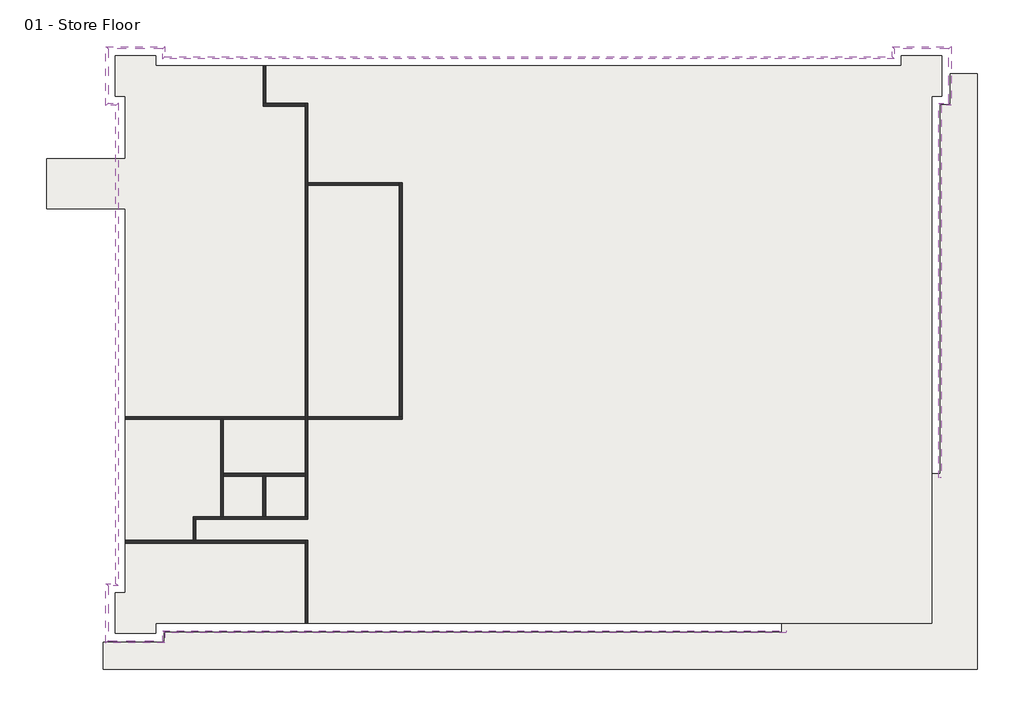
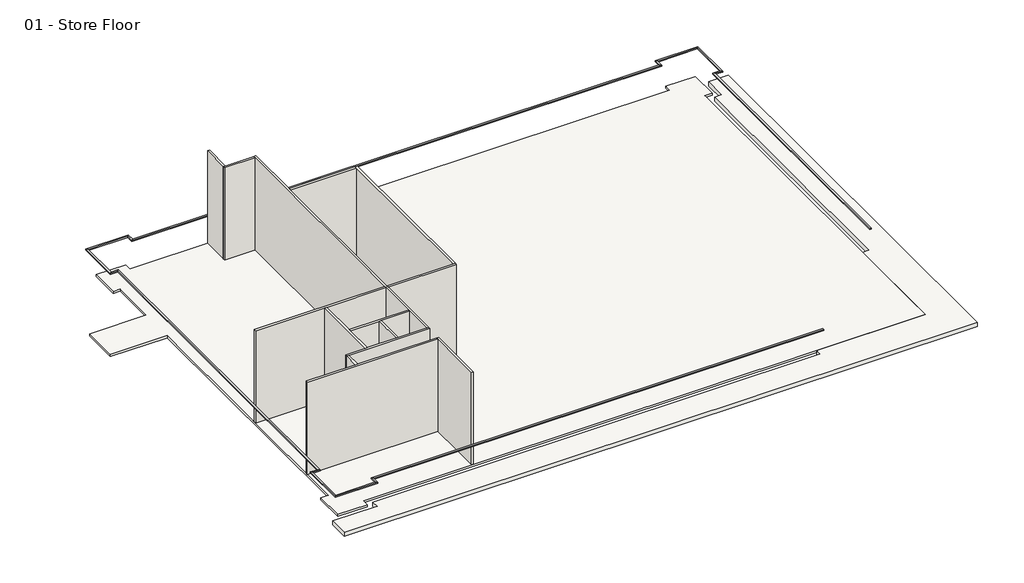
# One storey: 16 proxies, 13 walls, 2 slabs.
"""IFC4 building model written with IfcOpenShell, lengths in millimetres."""

from ifc_helpers import new_model, si_unit, frame, origin, origin_with_axes, place, context, project, spatial, polyline, outline, extrude, faceted_brep, element, save

model = new_model("IFC4")

# Units and contexts
model_context = context("Model", 3, world=origin())
ifc_project = project(units=[si_unit("LENGTHUNIT", "METRE", prefix="MILLI")], contexts=[model_context])

# Site, building, storey
site = spatial("IfcSite", under=ifc_project)
building = spatial("IfcBuilding", under=site)
storey = spatial("IfcBuildingStorey", under=building, Name="01 - Store Floor", Elevation=0.0)

# Proxies
placement = place(None, origin())
element("IfcBuildingElementProxy", 1, Name="Reveals", at=placement, inside=storey, context=model_context, shape_type="SweptSolid", body=[
    extrude(outline(polyline([(11070.0272279, -14331.9313057), (11070.0272279, -14434.4313057), (-20003.9727721, -14434.4313057), (-20106.4727721, -14331.9313057), (11070.0272279, -14331.9313057)])), frame((0.0, 0.0, 1675.0), z_axis=(0.0, 0.0, 1.0), x_axis=(1.0, 0.0, 0.0)), (0.0, 0.0, 1.0), 75.0),
])
element("IfcBuildingElementProxy", 2, Name="Reveals", at=placement, inside=storey, context=model_context, shape_type="SweptSolid", body=[
    extrude(outline(polyline([(-20106.4727721, -14331.9313057), (-20003.9727721, -14434.4313057), (-20003.9727721, -14934.2313057), (-20106.4727721, -14831.7313057), (-20106.4727721, -14331.9313057)])), frame((0.0, 0.0, 1675.0), z_axis=(0.0, 0.0, 1.0), x_axis=(1.0, 0.0, 0.0)), (0.0, 0.0, 1.0), 75.0),
])
element("IfcBuildingElementProxy", 3, Name="Reveals", at=placement, inside=storey, context=model_context, shape_type="SweptSolid", body=[
    extrude(outline(polyline([(-20106.4727721, -14831.7313057), (-20003.9727721, -14934.2313057), (-22946.9727721, -14934.2313057), (-22844.4727721, -14831.7313057), (-20106.4727721, -14831.7313057)])), frame((0.0, 0.0, 1675.0), z_axis=(0.0, 0.0, 1.0), x_axis=(1.0, 0.0, 0.0)), (0.0, 0.0, 1.0), 75.0),
])
element("IfcBuildingElementProxy", 4, Name="Reveals", at=placement, inside=storey, context=model_context, shape_type="SweptSolid", body=[
    extrude(outline(polyline([(-22844.4727721, -14831.7313057), (-22946.9727721, -14934.2313057), (-22946.9727721, -11991.2313057), (-22844.4727721, -12093.7313057), (-22844.4727721, -14831.7313057)])), frame((0.0, 0.0, 1675.0), z_axis=(0.0, 0.0, 1.0), x_axis=(1.0, 0.0, 0.0)), (0.0, 0.0, 1.0), 75.0),
])
element("IfcBuildingElementProxy", 5, Name="Reveals", at=placement, inside=storey, context=model_context, shape_type="SweptSolid", body=[
    extrude(outline(polyline([(-22844.4727721, -12093.7313057), (-22946.9727721, -11991.2313057), (-22446.9727721, -11991.2313057), (-22344.4727721, -12093.7313057), (-22844.4727721, -12093.7313057)])), frame((0.0, 0.0, 1675.0), z_axis=(0.0, 0.0, 1.0), x_axis=(1.0, 0.0, 0.0)), (0.0, 0.0, 1.0), 75.0),
])
element("IfcBuildingElementProxy", 6, Name="Reveals", at=placement, inside=storey, context=model_context, shape_type="SweptSolid", body=[
    extrude(outline(polyline([(-22344.4727721, -12093.7313057), (-22446.9727721, -11991.2313057), (-22446.9727721, 11927.5686943), (-22344.4727721, 12030.0686943), (-22344.4727721, -12093.7313057)])), frame((0.0, 0.0, 1675.0), z_axis=(0.0, 0.0, 1.0), x_axis=(1.0, 0.0, 0.0)), (0.0, 0.0, 1.0), 75.0),
])
element("IfcBuildingElementProxy", 7, Name="Reveals", at=placement, inside=storey, context=model_context, shape_type="SweptSolid", body=[
    extrude(outline(polyline([(-22344.4727721, 12030.0686943), (-22446.9727721, 11927.5686943), (-22946.9727721, 11927.5686943), (-22844.4727721, 12030.0686943), (-22344.4727721, 12030.0686943)])), frame((0.0, 0.0, 1675.0), z_axis=(0.0, 0.0, 1.0), x_axis=(1.0, 0.0, 0.0)), (0.0, 0.0, 1.0), 75.0),
])
element("IfcBuildingElementProxy", 8, Name="Reveals", at=placement, inside=storey, context=model_context, shape_type="SweptSolid", body=[
    extrude(outline(polyline([(-22844.4727721, 12030.0686943), (-22946.9727721, 11927.5686943), (-22946.9727721, 14870.5686943), (-22844.4727721, 14768.0686943), (-22844.4727721, 12030.0686943)])), frame((0.0, 0.0, 1675.0), z_axis=(0.0, 0.0, 1.0), x_axis=(1.0, 0.0, 0.0)), (0.0, 0.0, 1.0), 75.0),
])
element("IfcBuildingElementProxy", 9, Name="Reveals", at=placement, inside=storey, context=model_context, shape_type="SweptSolid", body=[
    extrude(outline(polyline([(-22844.4727721, 14768.0686943), (-22946.9727721, 14870.5686943), (-20003.9727721, 14870.5686943), (-20106.4727721, 14768.0686943), (-22844.4727721, 14768.0686943)])), frame((0.0, 0.0, 1675.0), z_axis=(0.0, 0.0, 1.0), x_axis=(1.0, 0.0, 0.0)), (0.0, 0.0, 1.0), 75.0),
])
element("IfcBuildingElementProxy", 10, Name="Reveals", at=placement, inside=storey, context=model_context, shape_type="SweptSolid", body=[
    extrude(outline(polyline([(-20106.4727721, 14768.0686943), (-20003.9727721, 14870.5686943), (-20003.9727721, 14370.5686943), (-20106.4727721, 14268.0686943), (-20106.4727721, 14768.0686943)])), frame((0.0, 0.0, 1675.0), z_axis=(0.0, 0.0, 1.0), x_axis=(1.0, 0.0, 0.0)), (0.0, 0.0, 1.0), 75.0),
])
element("IfcBuildingElementProxy", 11, Name="Reveals", at=placement, inside=storey, context=model_context, shape_type="SweptSolid", body=[
    extrude(outline(polyline([(-20106.4727721, 14268.0686943), (-20003.9727721, 14370.5686943), (16365.0272279, 14370.5686943), (16467.5272279, 14268.0686943), (-20106.4727721, 14268.0686943)])), frame((0.0, 0.0, 1675.0), z_axis=(0.0, 0.0, 1.0), x_axis=(1.0, 0.0, 0.0)), (0.0, 0.0, 1.0), 75.0),
])
element("IfcBuildingElementProxy", 12, Name="Reveals", at=placement, inside=storey, context=model_context, shape_type="SweptSolid", body=[
    extrude(outline(polyline([(16467.5272279, 14268.0686943), (16365.0272279, 14370.5686943), (16365.0272279, 14870.5686943), (16467.5272279, 14768.0686943), (16467.5272279, 14268.0686943)])), frame((0.0, 0.0, 1675.0), z_axis=(0.0, 0.0, 1.0), x_axis=(1.0, 0.0, 0.0)), (0.0, 0.0, 1.0), 75.0),
])
element("IfcBuildingElementProxy", 13, Name="Reveals", at=placement, inside=storey, context=model_context, shape_type="SweptSolid", body=[
    extrude(outline(polyline([(16467.5272279, 14768.0686943), (16365.0272279, 14870.5686943), (19308.0272279, 14870.5686943), (19205.5272279, 14768.0686943), (16467.5272279, 14768.0686943)])), frame((0.0, 0.0, 1675.0), z_axis=(0.0, 0.0, 1.0), x_axis=(1.0, 0.0, 0.0)), (0.0, 0.0, 1.0), 75.0),
])
element("IfcBuildingElementProxy", 14, Name="Reveals", at=placement, inside=storey, context=model_context, shape_type="SweptSolid", body=[
    extrude(outline(polyline([(19205.5272279, 14768.0686943), (19308.0272279, 14870.5686943), (19308.0272279, 11927.5686943), (19205.5272279, 12030.0686943), (19205.5272279, 14768.0686943)])), frame((0.0, 0.0, 1675.0), z_axis=(0.0, 0.0, 1.0), x_axis=(1.0, 0.0, 0.0)), (0.0, 0.0, 1.0), 75.0),
])
element("IfcBuildingElementProxy", 15, Name="Reveals", at=placement, inside=storey, context=model_context, shape_type="SweptSolid", body=[
    extrude(outline(polyline([(19205.5272279, 12030.0686943), (19308.0272279, 11927.5686943), (18808.0272279, 11927.5686943), (18705.5272279, 12030.0686943), (19205.5272279, 12030.0686943)])), frame((0.0, 0.0, 1675.0), z_axis=(0.0, 0.0, 1.0), x_axis=(1.0, 0.0, 0.0)), (0.0, 0.0, 1.0), 75.0),
])
element("IfcBuildingElementProxy", 16, Name="Reveals", at=placement, inside=storey, context=model_context, shape_type="SweptSolid", body=[
    extrude(outline(polyline([(18705.5272279, 12030.0686943), (18808.0272279, 11927.5686943), (18808.0272279, -6696.4313057), (18705.5272279, -6696.4313057), (18705.5272279, 12030.0686943)])), frame((0.0, 0.0, 1675.0), z_axis=(0.0, 0.0, 1.0), x_axis=(1.0, 0.0, 0.0)), (0.0, 0.0, 1.0), 75.0),
])

# Slabs
element("IfcSlab", 17, ObjectType="Generic 150mm", at=placement, inside=storey, context=model_context, shape_type="SweptSolid", body=[
    extrude(outline(polyline([(16821.5272279, 13914.0686943), (16821.5272279, 14414.0686943), (18851.5272279, 14414.0686943), (18851.5272279, 12384.0686943), (18351.5272279, 12384.0686943), (18351.5272279, -6481.9313057), (18351.5272279, -13977.9313057), (10855.5272279, -13977.9313057), (-20460.4727721, -13977.9313057), (-20460.4727721, -14477.7313057), (-22490.4727721, -14477.7313057), (-22490.4727721, -12447.7313057), (-21990.4727721, -12447.7313057), (-21990.4727721, 6772.0686943), (-25919.4727721, 6772.0686943), (-25919.4727721, 9272.0686943), (-21990.4727721, 9272.0686943), (-21990.4727721, 12384.0686943), (-22490.4727721, 12384.0686943), (-22490.4727721, 14414.0686943), (-20460.4727721, 14414.0686943), (-20460.4727721, 13914.0686943), (16821.5272279, 13914.0686943)])), frame((0.0, 0.0, -150.0), z_axis=(0.0, 0.0, 1.0), x_axis=(1.0, 0.0, 0.0)), (0.0, 0.0, 1.0), 150.0),
])
element("IfcSlab", 18, ObjectType="Generic 300mm", at=placement, inside=storey, context=model_context, shape_type="SweptSolid", body=[
    extrude(outline(polyline([(20630.5272279, -16256.9313057), (-23090.4727721, -16256.9313057), (-23090.4727721, -14906.7313057), (-20031.4727721, -14906.7313057), (-20031.4727721, -14406.9313057), (10855.5272279, -14406.9313057), (10855.5272279, -13977.9313057), (18351.5272279, -13977.9313057), (18351.5272279, -6481.9313057), (18780.5272279, -6481.9313057), (18780.5272279, 11955.0686943), (19280.5272279, 11955.0686943), (19280.5272279, 13514.0686943), (20630.5272279, 13514.0686943), (20630.5272279, -16256.9313057)])), frame((0.0, 0.0, -300.0), z_axis=(0.0, 0.0, 1.0), x_axis=(1.0, 0.0, 0.0)), (0.0, 0.0, 1.0), 300.0),
])

# Walls
element("IfcWall", 19, ObjectType="Interior - 138mm Partition (1-hr)", at=placement, inside=storey, context=model_context, shape_type="Brep", body=[
    faceted_brep([(-12850.2227721, -13977.9313057, 0.0), (-12850.2227721, -9826.1813057, 0.0), (-12850.2227721, -9826.1813057, 6750.0), (-12850.2227721, -13977.9313057, 6750.0), (-12988.7227721, -13977.9313057, 0.0), (-12988.7227721, -13977.9313057, 6750.0), (-12988.7227721, -9964.6813057, 6750.0), (-12988.7227721, -9826.1813057, 6750.0), (-12988.7227721, -9826.1813057, 0.0), (-12988.7227721, -9964.6813057, 0.0)], [[[0, 1, 2, 3]], [[4, 5, 6, 7, 8, 9]], [[1, 0, 4, 9, 8]], [[0, 3, 5, 4]], [[2, 1, 8, 7]], [[3, 2, 7, 6, 5]]]),
])
element("IfcWall", 20, ObjectType="Interior - 138mm Partition (1-hr)", at=placement, inside=storey, context=model_context, shape_type="Brep", body=[
    faceted_brep([(-12988.7227721, 12024.3186943, 0.0), (-14950.2227721, 12024.3186943, 0.0), (-15088.7227721, 12024.3186943, 0.0), (-15088.7227721, 12024.3186943, 6750.0), (-14950.2227721, 12024.3186943, 6750.0), (-12988.7227721, 12024.3186943, 6750.0), (-12988.7227721, 11885.8186943, 0.0), (-12988.7227721, 11885.8186943, 6750.0), (-15088.7227721, 11885.8186943, 6750.0), (-15088.7227721, 11885.8186943, 0.0)], [[[0, 1, 2, 3, 4, 5]], [[6, 7, 8, 9]], [[2, 1, 0, 6, 9]], [[0, 5, 7, 6]], [[3, 2, 9, 8]], [[5, 4, 3, 8, 7]]]),
])
element("IfcWall", 21, ObjectType="Interior - 138mm Partition (1-hr)", at=placement, inside=storey, context=model_context, shape_type="SweptSolid", body=[
    extrude(outline(polyline([(-14950.2227721, 13914.0686943), (-14950.2227721, 12024.3186943), (-15088.7227721, 12024.3186943), (-15088.7227721, 13914.0686943), (-14950.2227721, 13914.0686943)])), origin_with_axes(), (0.0, 0.0, 1.0), 6750.0),
])
element("IfcWall", 22, ObjectType="Interior - 138mm Partition (1-hr)", at=placement, inside=storey, context=model_context, shape_type="Brep", body=[
    faceted_brep([(-12850.2227721, -8637.6813057, 0.0), (-12988.7227721, -8637.6813057, 0.0), (-14965.5977721, -8637.6813057, 0.0), (-15104.0977721, -8637.6813057, 0.0), (-17080.9727721, -8637.6813057, 0.0), (-17219.4727721, -8637.6813057, 0.0), (-18588.7227721, -8637.6813057, 0.0), (-18588.7227721, -8637.6813057, 6750.0), (-17219.4727721, -8637.6813057, 6750.0), (-17080.9727721, -8637.6813057, 6750.0), (-15104.0977721, -8637.6813057, 6750.0), (-14965.5977721, -8637.6813057, 6750.0), (-12988.7227721, -8637.6813057, 6750.0), (-12850.2227721, -8637.6813057, 6750.0), (-12850.2227721, -8776.1813057, 0.0), (-12850.2227721, -8776.1813057, 6750.0), (-18450.2227721, -8776.1813057, 6750.0), (-18588.7227721, -8776.1813057, 6750.0), (-18588.7227721, -8776.1813057, 0.0), (-18450.2227721, -8776.1813057, 0.0)], [[[0, 1, 2, 3, 4, 5, 6, 7, 8, 9, 10, 11, 12, 13]], [[14, 15, 16, 17, 18, 19]], [[6, 5, 4, 3, 2, 1, 0, 14, 19, 18]], [[7, 6, 18, 17]], [[0, 13, 15, 14]], [[13, 12, 11, 10, 9, 8, 7, 17, 16, 15]]]),
])
element("IfcWall", 23, ObjectType="Interior - 138mm Partition (1-hr)", at=placement, inside=storey, context=model_context, shape_type="SweptSolid", body=[
    extrude(outline(polyline([(-18588.7227721, -9826.1813057), (-18588.7227721, -8776.1813057), (-18450.2227721, -8776.1813057), (-18450.2227721, -9826.1813057), (-18588.7227721, -9826.1813057)])), origin_with_axes(), (0.0, 0.0, 1.0), 6750.0),
])
element("IfcWall", 24, ObjectType="Interior - 138mm Partition (1-hr)", at=placement, inside=storey, context=model_context, shape_type="Brep", body=[
    faceted_brep([(-21990.4727721, -9964.6813057, 0.0), (-12988.7227721, -9964.6813057, 0.0), (-12988.7227721, -9964.6813057, 6750.0), (-21990.4727721, -9964.6813057, 6750.0), (-21990.4727721, -9826.1813057, 0.0), (-21990.4727721, -9826.1813057, 6750.0), (-18588.7227721, -9826.1813057, 6750.0), (-18450.2227721, -9826.1813057, 6750.0), (-12988.7227721, -9826.1813057, 6750.0), (-12988.7227721, -9826.1813057, 0.0), (-18450.2227721, -9826.1813057, 0.0), (-18588.7227721, -9826.1813057, 0.0)], [[[0, 1, 2, 3]], [[4, 5, 6, 7, 8, 9, 10, 11]], [[1, 0, 4, 11, 10, 9]], [[0, 3, 5, 4]], [[2, 1, 9, 8]], [[3, 2, 8, 7, 6, 5]]]),
])
element("IfcWall", 25, ObjectType="Interior - 138mm Partition (1-hr)", at=placement, inside=storey, context=model_context, shape_type="Brep", body=[
    faceted_brep([(-17080.9727721, -8637.6813057, 0.0), (-17080.9727721, -6606.9313057, 0.0), (-17080.9727721, -6468.4313057, 0.0), (-17080.9727721, -3776.1813057, 0.0), (-17080.9727721, -3776.1813057, 6750.0), (-17080.9727721, -6468.4313057, 6750.0), (-17080.9727721, -6606.9313057, 6750.0), (-17080.9727721, -8637.6813057, 6750.0), (-17219.4727721, -8637.6813057, 0.0), (-17219.4727721, -8637.6813057, 6750.0), (-17219.4727721, -3776.1813057, 6750.0), (-17219.4727721, -3776.1813057, 0.0)], [[[0, 1, 2, 3, 4, 5, 6, 7]], [[8, 9, 10, 11]], [[3, 2, 1, 0, 8, 11]], [[0, 7, 9, 8]], [[4, 3, 11, 10]], [[7, 6, 5, 4, 10, 9]]]),
])
element("IfcWall", 26, ObjectType="Interior - 138mm Partition (1-hr)", at=placement, inside=storey, context=model_context, shape_type="Brep", body=[
    faceted_brep([(-21990.4727721, -3637.6813057, 0.0), (-21990.4727721, -3637.6813057, 6750.0), (-12988.7227721, -3637.6813057, 6750.0), (-12988.7227721, -3637.6813057, 0.0), (-21990.4727721, -3776.1813057, 6750.0), (-21990.4727721, -3776.1813057, 0.0), (-17219.4727721, -3776.1813057, 0.0), (-17080.9727721, -3776.1813057, 0.0), (-12988.7227721, -3776.1813057, 0.0), (-12988.7227721, -3776.1813057, 6750.0), (-17080.9727721, -3776.1813057, 6750.0), (-17219.4727721, -3776.1813057, 6750.0)], [[[0, 1, 2, 3]], [[4, 5, 6, 7, 8, 9, 10, 11]], [[5, 0, 3, 8, 7, 6]], [[1, 0, 5, 4]], [[3, 2, 9, 8]], [[1, 4, 11, 10, 9, 2]]]),
    faceted_brep([(-8135.7227721, -3637.6813057, 6750.0), (-8135.7227721, -3637.6813057, 0.0), (-8274.2227721, -3637.6813057, 0.0), (-12850.2227721, -3637.6813057, 0.0), (-12850.2227721, -3637.6813057, 6750.0), (-8274.2227721, -3637.6813057, 6750.0), (-8135.7227721, -3776.1813057, 0.0), (-8135.7227721, -3776.1813057, 6750.0), (-12850.2227721, -3776.1813057, 6750.0), (-12850.2227721, -3776.1813057, 0.0)], [[[0, 1, 2, 3, 4, 5]], [[6, 7, 8, 9]], [[1, 6, 9, 3, 2]], [[1, 0, 7, 6]], [[4, 3, 9, 8]], [[7, 0, 5, 4, 8]]]),
])
element("IfcWall", 27, ObjectType="Interior - 138mm Partition (1-hr)", at=placement, inside=storey, context=model_context, shape_type="Brep", body=[
    faceted_brep([(-8135.7227721, -3637.6813057, 0.0), (-8135.7227721, 8062.3186943, 0.0), (-8135.7227721, 8062.3186943, 6750.0), (-8135.7227721, -3637.6813057, 6750.0), (-8274.2227721, -3637.6813057, 0.0), (-8274.2227721, -3637.6813057, 6750.0), (-8274.2227721, 7923.8186943, 6750.0), (-8274.2227721, 8062.3186943, 6750.0), (-8274.2227721, 8062.3186943, 0.0), (-8274.2227721, 7923.8186943, 0.0)], [[[0, 1, 2, 3]], [[4, 5, 6, 7, 8, 9]], [[1, 0, 4, 9, 8]], [[0, 3, 5, 4]], [[2, 1, 8, 7]], [[3, 2, 7, 6, 5]]]),
])
element("IfcWall", 28, ObjectType="Interior - 138mm Partition (1-hr)", at=placement, inside=storey, context=model_context, shape_type="SweptSolid", body=[
    extrude(outline(polyline([(-12850.2227721, 8062.3186943), (-8274.2227721, 8062.3186943), (-8274.2227721, 7923.8186943), (-12850.2227721, 7923.8186943), (-12850.2227721, 8062.3186943)])), origin_with_axes(), (0.0, 0.0, 1.0), 6750.0),
])
element("IfcWall", 29, ObjectType="Interior - 138mm Partition (1-hr)", at=placement, inside=storey, context=model_context, shape_type="Brep", body=[
    faceted_brep([(-12988.7227721, -6468.4313057, 0.0), (-17080.9727721, -6468.4313057, 0.0), (-17080.9727721, -6468.4313057, 6750.0), (-12988.7227721, -6468.4313057, 6750.0), (-12988.7227721, -6606.9313057, 0.0), (-12988.7227721, -6606.9313057, 6750.0), (-14965.5977721, -6606.9313057, 6750.0), (-15104.0977721, -6606.9313057, 6750.0), (-17080.9727721, -6606.9313057, 6750.0), (-17080.9727721, -6606.9313057, 0.0), (-15104.0977721, -6606.9313057, 0.0), (-14965.5977721, -6606.9313057, 0.0)], [[[0, 1, 2, 3]], [[4, 5, 6, 7, 8, 9, 10, 11]], [[1, 0, 4, 11, 10, 9]], [[0, 3, 5, 4]], [[2, 1, 9, 8]], [[3, 2, 8, 7, 6, 5]]]),
])
element("IfcWall", 30, ObjectType="Interior - 138mm Partition (1-hr)", at=placement, inside=storey, context=model_context, shape_type="SweptSolid", body=[
    extrude(outline(polyline([(-15104.0977721, -8637.6813057), (-15104.0977721, -6606.9313057), (-14965.5977721, -6606.9313057), (-14965.5977721, -8637.6813057), (-15104.0977721, -8637.6813057)])), origin_with_axes(), (0.0, 0.0, 1.0), 6750.0),
])
element("IfcWall", 31, ObjectType="Interior - 138mm Partition (1-hr)", at=placement, inside=storey, context=model_context, shape_type="Brep", body=[
    faceted_brep([(-12850.2227721, -8637.6813057, 0.0), (-12850.2227721, -3776.1813057, 0.0), (-12850.2227721, -3637.6813057, 0.0), (-12850.2227721, 7923.8186943, 0.0), (-12850.2227721, 8062.3186943, 0.0), (-12850.2227721, 12024.3186943, 0.0), (-12850.2227721, 12024.3186943, 6750.0), (-12850.2227721, 8062.3186943, 6750.0), (-12850.2227721, 7923.8186943, 6750.0), (-12850.2227721, -3637.6813057, 6750.0), (-12850.2227721, -3776.1813057, 6750.0), (-12850.2227721, -8637.6813057, 6750.0), (-12988.7227721, -8637.6813057, 0.0), (-12988.7227721, -8637.6813057, 6750.0), (-12988.7227721, -6606.9313057, 6750.0), (-12988.7227721, -6468.4313057, 6750.0), (-12988.7227721, -3776.1813057, 6750.0), (-12988.7227721, -3637.6813057, 6750.0), (-12988.7227721, 11885.8186943, 6750.0), (-12988.7227721, 12024.3186943, 6750.0), (-12988.7227721, 12024.3186943, 0.0), (-12988.7227721, 11885.8186943, 0.0), (-12988.7227721, -3637.6813057, 0.0), (-12988.7227721, -3776.1813057, 0.0), (-12988.7227721, -6468.4313057, 0.0), (-12988.7227721, -6606.9313057, 0.0)], [[[0, 1, 2, 3, 4, 5, 6, 7, 8, 9, 10, 11]], [[12, 13, 14, 15, 16, 17, 18, 19, 20, 21, 22, 23, 24, 25]], [[5, 4, 3, 2, 1, 0, 12, 25, 24, 23, 22, 21, 20]], [[6, 5, 20, 19]], [[0, 11, 13, 12]], [[11, 10, 9, 8, 7, 6, 19, 18, 17, 16, 15, 14, 13]]]),
])

save(model, "model.ifc")
